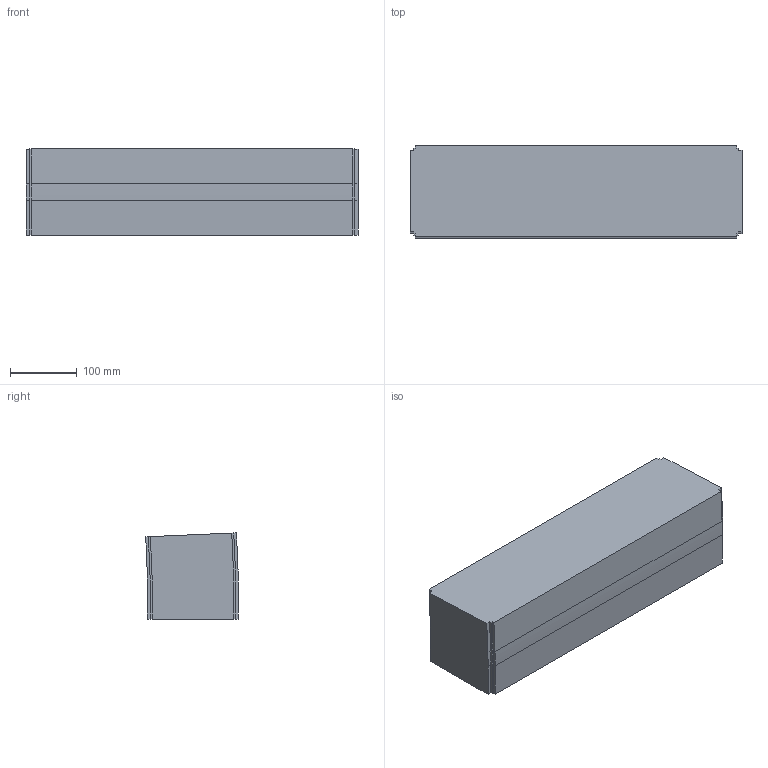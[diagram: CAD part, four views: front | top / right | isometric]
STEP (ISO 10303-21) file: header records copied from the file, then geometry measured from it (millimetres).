
FILE_DESCRIPTION (( 'STEP AP214' ), '1' );
FILE_NAME ('FS-MTC2-150-INOX verticaalbocht.500 2,5°.STEP', '2017-02-08T12:42:12', ( '' ), ( '' ), 'SwSTEP 2.0', 'SolidWorks 2016', '' );
FILE_SCHEMA (( 'AUTOMOTIVE_DESIGN' ));
Length unit declared in the file: millimetre
Products named in the file (1): FS-MTC2-150-INOX verticaalbocht.500 2,5°
Bounding box: 499 x 139.2 x 129.74 mm (x, y, z)
Volume: 8612154.4 mm3; surface area: 297004.5 mm2
Topology: 1 solids, 1 shells, 42 faces, 120 edges, 80 vertices
Faces by surface type: plane 32, cylinder 10
Entity records: 1398 total; most frequent: CARTESIAN_POINT 243, ORIENTED_EDGE 240, DIRECTION 226, EDGE_CURVE 120, VECTOR 100, LINE 100, VERTEX_POINT 80, AXIS2_PLACEMENT_3D 63
